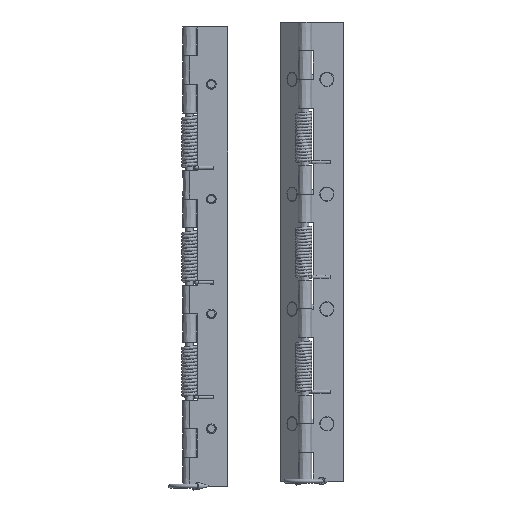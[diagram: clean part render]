
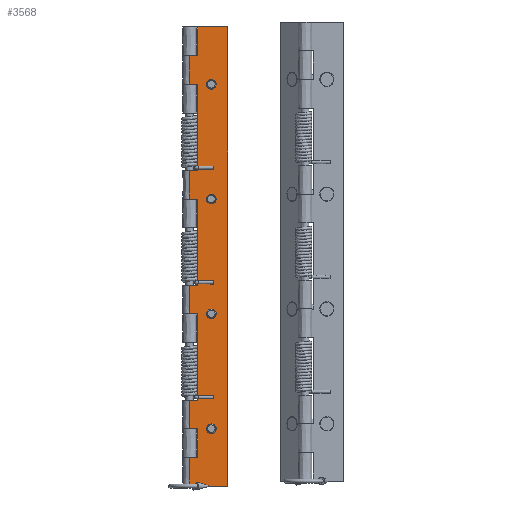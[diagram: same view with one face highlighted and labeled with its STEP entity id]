
A CAD part, top view. The second image highlights one B-rep face of the part: STEP entity #3568.
In plain terms, the highlighted planar face has unit normal (-0.001, 0, 1).
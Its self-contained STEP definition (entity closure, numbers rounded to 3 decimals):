
#113=LINE('',#17124,#417);
#115=LINE('',#17129,#419);
#123=LINE('',#17153,#427);
#126=LINE('',#17160,#430);
#131=LINE('',#17172,#435);
#134=LINE('',#17178,#438);
#138=LINE('',#17191,#442);
#140=LINE('',#17196,#444);
#146=LINE('',#17210,#450);
#150=LINE('',#17223,#454);
#152=LINE('',#17228,#456);
#158=LINE('',#17242,#462);
#162=LINE('',#17255,#466);
#163=LINE('',#17257,#467);
#170=LINE('',#17274,#474);
#171=LINE('',#17284,#475);
#172=LINE('',#17285,#476);
#173=LINE('',#17286,#477);
#174=LINE('',#17287,#478);
#175=LINE('',#17288,#479);
#176=LINE('',#17290,#480);
#177=LINE('',#17291,#481);
#417=VECTOR('',#4417,1000.);
#419=VECTOR('',#4421,1000.);
#427=VECTOR('',#4441,1000.);
#430=VECTOR('',#4446,1000.);
#435=VECTOR('',#4459,1000.);
#438=VECTOR('',#4464,1000.);
#442=VECTOR('',#4474,1000.);
#444=VECTOR('',#4478,1000.);
#450=VECTOR('',#4492,1000.);
#454=VECTOR('',#4502,1000.);
#456=VECTOR('',#4506,1000.);
#462=VECTOR('',#4520,1000.);
#466=VECTOR('',#4530,1000.);
#467=VECTOR('',#4533,1000.);
#474=VECTOR('',#4548,1000.);
#475=VECTOR('',#4559,1000.);
#476=VECTOR('',#4560,1000.);
#477=VECTOR('',#4561,1000.);
#478=VECTOR('',#4562,1000.);
#479=VECTOR('',#4563,1000.);
#480=VECTOR('',#4564,1000.);
#481=VECTOR('',#4565,1000.);
#1240=ORIENTED_EDGE('',*,*,#2039,.T.);
#1241=ORIENTED_EDGE('',*,*,#2040,.T.);
#1242=ORIENTED_EDGE('',*,*,#2041,.T.);
#1243=ORIENTED_EDGE('',*,*,#2042,.T.);
#1244=ORIENTED_EDGE('',*,*,#1987,.F.);
#1245=ORIENTED_EDGE('',*,*,#1977,.F.);
#1246=ORIENTED_EDGE('',*,*,#2043,.T.);
#1247=ORIENTED_EDGE('',*,*,#1980,.T.);
#1248=ORIENTED_EDGE('',*,*,#2006,.F.);
#1249=ORIENTED_EDGE('',*,*,#1996,.F.);
#1250=ORIENTED_EDGE('',*,*,#2044,.T.);
#1251=ORIENTED_EDGE('',*,*,#1998,.T.);
#1252=ORIENTED_EDGE('',*,*,#2022,.F.);
#1253=ORIENTED_EDGE('',*,*,#2012,.F.);
#1254=ORIENTED_EDGE('',*,*,#2045,.T.);
#1255=ORIENTED_EDGE('',*,*,#2014,.T.);
#1256=ORIENTED_EDGE('',*,*,#2038,.F.);
#1257=ORIENTED_EDGE('',*,*,#2028,.F.);
#1258=ORIENTED_EDGE('',*,*,#2046,.T.);
#1259=ORIENTED_EDGE('',*,*,#2029,.T.);
#1260=ORIENTED_EDGE('',*,*,#2047,.T.);
#1261=ORIENTED_EDGE('',*,*,#2048,.T.);
#1262=ORIENTED_EDGE('',*,*,#1990,.F.);
#1263=ORIENTED_EDGE('',*,*,#1963,.F.);
#1264=ORIENTED_EDGE('',*,*,#2049,.T.);
#1265=ORIENTED_EDGE('',*,*,#1965,.T.);
#1963=EDGE_CURVE('',#2405,#2400,#113,.T.);
#1965=EDGE_CURVE('',#2408,#2407,#115,.T.);
#1977=EDGE_CURVE('',#2417,#2412,#123,.T.);
#1980=EDGE_CURVE('',#2421,#2420,#126,.T.);
#1987=EDGE_CURVE('',#2412,#2407,#131,.T.);
#1990=EDGE_CURVE('',#2400,#2425,#134,.T.);
#1996=EDGE_CURVE('',#2431,#2426,#138,.T.);
#1998=EDGE_CURVE('',#2434,#2433,#140,.T.);
#2006=EDGE_CURVE('',#2426,#2420,#146,.T.);
#2012=EDGE_CURVE('',#2443,#2438,#150,.T.);
#2014=EDGE_CURVE('',#2446,#2445,#152,.T.);
#2022=EDGE_CURVE('',#2438,#2433,#158,.T.);
#2028=EDGE_CURVE('',#2455,#2450,#162,.T.);
#2029=EDGE_CURVE('',#2456,#2457,#163,.T.);
#2038=EDGE_CURVE('',#2450,#2445,#170,.T.);
#2039=EDGE_CURVE('',#2462,#2462,#2710,.T.);
#2040=EDGE_CURVE('',#2463,#2463,#2711,.T.);
#2041=EDGE_CURVE('',#2464,#2464,#2712,.T.);
#2042=EDGE_CURVE('',#2465,#2465,#2713,.T.);
#2043=EDGE_CURVE('',#2417,#2421,#171,.T.);
#2044=EDGE_CURVE('',#2431,#2434,#172,.T.);
#2045=EDGE_CURVE('',#2443,#2446,#173,.T.);
#2046=EDGE_CURVE('',#2455,#2456,#174,.T.);
#2047=EDGE_CURVE('',#2457,#2466,#175,.T.);
#2048=EDGE_CURVE('',#2466,#2425,#176,.T.);
#2049=EDGE_CURVE('',#2405,#2408,#177,.T.);
#2400=VERTEX_POINT('',#17114);
#2405=VERTEX_POINT('',#17123);
#2407=VERTEX_POINT('',#17128);
#2408=VERTEX_POINT('',#17130);
#2412=VERTEX_POINT('',#17143);
#2417=VERTEX_POINT('',#17152);
#2420=VERTEX_POINT('',#17159);
#2421=VERTEX_POINT('',#17161);
#2425=VERTEX_POINT('',#17176);
#2426=VERTEX_POINT('',#17181);
#2431=VERTEX_POINT('',#17190);
#2433=VERTEX_POINT('',#17195);
#2434=VERTEX_POINT('',#17197);
#2438=VERTEX_POINT('',#17213);
#2443=VERTEX_POINT('',#17222);
#2445=VERTEX_POINT('',#17227);
#2446=VERTEX_POINT('',#17229);
#2450=VERTEX_POINT('',#17245);
#2455=VERTEX_POINT('',#17254);
#2456=VERTEX_POINT('',#17258);
#2457=VERTEX_POINT('',#17259);
#2462=VERTEX_POINT('',#17277);
#2463=VERTEX_POINT('',#17279);
#2464=VERTEX_POINT('',#17281);
#2465=VERTEX_POINT('',#17283);
#2466=VERTEX_POINT('',#17289);
#2710=CIRCLE('',#3984,2.);
#2711=CIRCLE('',#3985,2.);
#2712=CIRCLE('',#3986,2.);
#2713=CIRCLE('',#3987,2.);
#2896=EDGE_LOOP('',(#1240));
#2897=EDGE_LOOP('',(#1241));
#2898=EDGE_LOOP('',(#1242));
#2899=EDGE_LOOP('',(#1243));
#2900=EDGE_LOOP('',(#1244,#1245,#1246,#1247,#1248,#1249,#1250,#1251,#1252,
#1253,#1254,#1255,#1256,#1257,#1258,#1259,#1260,#1261,#1262,#1263,#1264,
#1265));
#3190=FACE_BOUND('',#2896,.T.);
#3191=FACE_BOUND('',#2897,.T.);
#3192=FACE_BOUND('',#2898,.T.);
#3193=FACE_BOUND('',#2899,.T.);
#3194=FACE_BOUND('',#2900,.T.);
#3428=PLANE('',#3983);
#3568=ADVANCED_FACE('',(#3190,#3191,#3192,#3193,#3194),#3428,.T.);
#3983=AXIS2_PLACEMENT_3D('',#17275,#4549,#4550);
#3984=AXIS2_PLACEMENT_3D('',#17276,#4551,#4552);
#3985=AXIS2_PLACEMENT_3D('',#17278,#4553,#4554);
#3986=AXIS2_PLACEMENT_3D('',#17280,#4555,#4556);
#3987=AXIS2_PLACEMENT_3D('',#17282,#4557,#4558);
#4417=DIRECTION('',(1.,0.,0.001));
#4421=DIRECTION('',(1.,0.,0.001));
#4441=DIRECTION('',(1.,0.,0.001));
#4446=DIRECTION('',(1.,0.,0.001));
#4459=DIRECTION('',(0.,1.,0.));
#4464=DIRECTION('',(0.,1.,0.));
#4474=DIRECTION('',(1.,0.,0.001));
#4478=DIRECTION('',(1.,0.,0.001));
#4492=DIRECTION('',(0.,1.,0.));
#4502=DIRECTION('',(1.,0.,0.001));
#4506=DIRECTION('',(1.,0.,0.001));
#4520=DIRECTION('',(0.,1.,0.));
#4530=DIRECTION('',(1.,0.,0.001));
#4533=DIRECTION('',(1.,0.,0.001));
#4548=DIRECTION('',(0.,1.,0.));
#4549=DIRECTION('',(-0.001,0.,1.));
#4550=DIRECTION('',(0.,1.,0.));
#4551=DIRECTION('',(0.001,0.,-1.));
#4552=DIRECTION('',(-1.,0.,-0.001));
#4553=DIRECTION('',(0.001,0.,-1.));
#4554=DIRECTION('',(-1.,0.,-0.001));
#4555=DIRECTION('',(0.001,0.,-1.));
#4556=DIRECTION('',(-1.,0.,-0.001));
#4557=DIRECTION('',(0.001,0.,-1.));
#4558=DIRECTION('',(-1.,0.,-0.001));
#4559=DIRECTION('',(0.,-1.,0.));
#4560=DIRECTION('',(0.,-1.,0.));
#4561=DIRECTION('',(0.,-1.,0.));
#4562=DIRECTION('',(0.,-1.,0.));
#4563=DIRECTION('',(0.,1.,0.));
#4564=DIRECTION('',(-1.,0.,-0.001));
#4565=DIRECTION('',(0.,-1.,0.));
#17114=CARTESIAN_POINT('',(-4.003,105.,3.494));
#17123=CARTESIAN_POINT('',(-8.253,105.,3.489));
#17124=CARTESIAN_POINT('',(-8.253,105.,3.489));
#17128=CARTESIAN_POINT('',(-4.003,90.,3.494));
#17129=CARTESIAN_POINT('',(-8.253,90.,3.489));
#17130=CARTESIAN_POINT('',(-8.253,90.,3.489));
#17143=CARTESIAN_POINT('',(-4.003,45.,3.494));
#17152=CARTESIAN_POINT('',(-8.253,45.,3.489));
#17153=CARTESIAN_POINT('',(-8.253,45.,3.489));
#17159=CARTESIAN_POINT('',(-4.003,30.,3.494));
#17160=CARTESIAN_POINT('',(-8.253,30.,3.489));
#17161=CARTESIAN_POINT('',(-8.253,30.,3.489));
#17172=CARTESIAN_POINT('',(-4.003,45.,3.494));
#17176=CARTESIAN_POINT('',(-4.003,120.,3.494));
#17178=CARTESIAN_POINT('',(-4.003,105.,3.494));
#17181=CARTESIAN_POINT('',(-4.003,-15.,3.494));
#17190=CARTESIAN_POINT('',(-8.253,-15.,3.489));
#17191=CARTESIAN_POINT('',(-8.253,-15.,3.489));
#17195=CARTESIAN_POINT('',(-4.003,-30.,3.494));
#17196=CARTESIAN_POINT('',(-8.253,-30.,3.489));
#17197=CARTESIAN_POINT('',(-8.253,-30.,3.489));
#17210=CARTESIAN_POINT('',(-4.003,-15.,3.494));
#17213=CARTESIAN_POINT('',(-4.003,-75.,3.494));
#17222=CARTESIAN_POINT('',(-8.253,-75.,3.489));
#17223=CARTESIAN_POINT('',(-8.253,-75.,3.489));
#17227=CARTESIAN_POINT('',(-4.003,-90.,3.494));
#17228=CARTESIAN_POINT('',(-8.253,-90.,3.489));
#17229=CARTESIAN_POINT('',(-8.253,-90.,3.489));
#17242=CARTESIAN_POINT('',(-4.003,-75.,3.494));
#17245=CARTESIAN_POINT('',(-4.003,-105.,3.494));
#17254=CARTESIAN_POINT('',(-8.253,-105.,3.489));
#17255=CARTESIAN_POINT('',(-8.253,-105.,3.489));
#17257=CARTESIAN_POINT('',(-8.253,-120.,3.489));
#17258=CARTESIAN_POINT('',(-8.253,-120.,3.489));
#17259=CARTESIAN_POINT('',(11.747,-120.,3.511));
#17274=CARTESIAN_POINT('',(-4.003,-105.,3.494));
#17275=CARTESIAN_POINT('',(-11.753,105.,3.485));
#17276=CARTESIAN_POINT('',(3.097,90.,3.501));
#17277=CARTESIAN_POINT('',(1.097,90.,3.499));
#17278=CARTESIAN_POINT('',(3.097,-30.,3.501));
#17279=CARTESIAN_POINT('',(1.097,-30.,3.499));
#17280=CARTESIAN_POINT('',(3.097,-90.,3.501));
#17281=CARTESIAN_POINT('',(1.097,-90.,3.499));
#17282=CARTESIAN_POINT('',(3.097,30.,3.501));
#17283=CARTESIAN_POINT('',(1.097,30.,3.499));
#17284=CARTESIAN_POINT('',(-8.253,45.,3.489));
#17285=CARTESIAN_POINT('',(-8.253,-15.,3.489));
#17286=CARTESIAN_POINT('',(-8.253,-75.,3.489));
#17287=CARTESIAN_POINT('',(-8.253,-105.,3.489));
#17288=CARTESIAN_POINT('',(11.747,-120.,3.511));
#17289=CARTESIAN_POINT('',(11.747,120.,3.511));
#17290=CARTESIAN_POINT('',(11.747,120.,3.511));
#17291=CARTESIAN_POINT('',(-8.253,105.,3.489));
